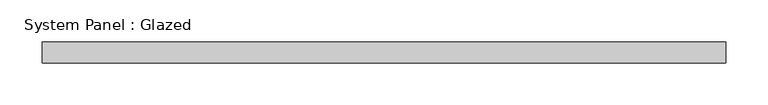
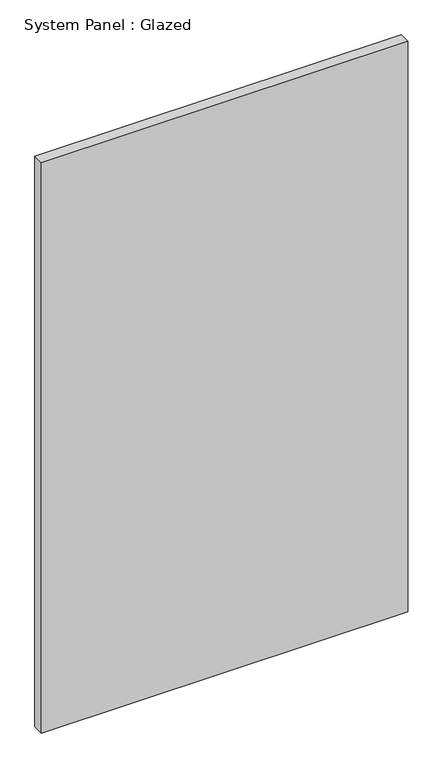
"""IFC4 building model written with IfcOpenShell, lengths in millimetres: plate geometry, System Panel : Glazed."""

from ifc_helpers import new_model, si_unit, origin, origin_with_axes, place, context, project, spatial, polyline, outline, extrude, source, transform, mapped, element, save


def system_panel_glazed_3f9df8c7(model_context):
    return source(origin(), model_context, "Body", "SweptSolid", [
        extrude(outline(polyline([(406.879079, 24.5), (-406.879079, 24.5), (-406.879079, 49.5), (406.879079, 49.5), (406.879079, 24.5)])), origin_with_axes(), (0.0, 0.0, 1.0), 1340.0),
    ])


if __name__ == "__main__":
    model = new_model("IFC4")
    model_context = context("Model", 3, world=origin())
    ifc_project = project(units=[si_unit("LENGTHUNIT", "METRE", prefix="MILLI")], contexts=[model_context])
    site = spatial("IfcSite", under=ifc_project)
    building = spatial("IfcBuilding", under=site)
    placement = place(None, origin())
    system_panel_glazed_shape = system_panel_glazed_3f9df8c7(model_context)
    element("IfcPlate", 1, ObjectType="System Panel : Glazed", at=placement, inside=building, context=model_context, shape_type="MappedRepresentation", body=[
        mapped(system_panel_glazed_shape, transform((0.0, 0.0, 0.0), x_axis=(1.0, 0.0, 0.0), y_axis=(0.0, 1.0, 0.0), z_axis=(0.0, 0.0, 1.0))),
    ])
    save(model, "model.ifc")
